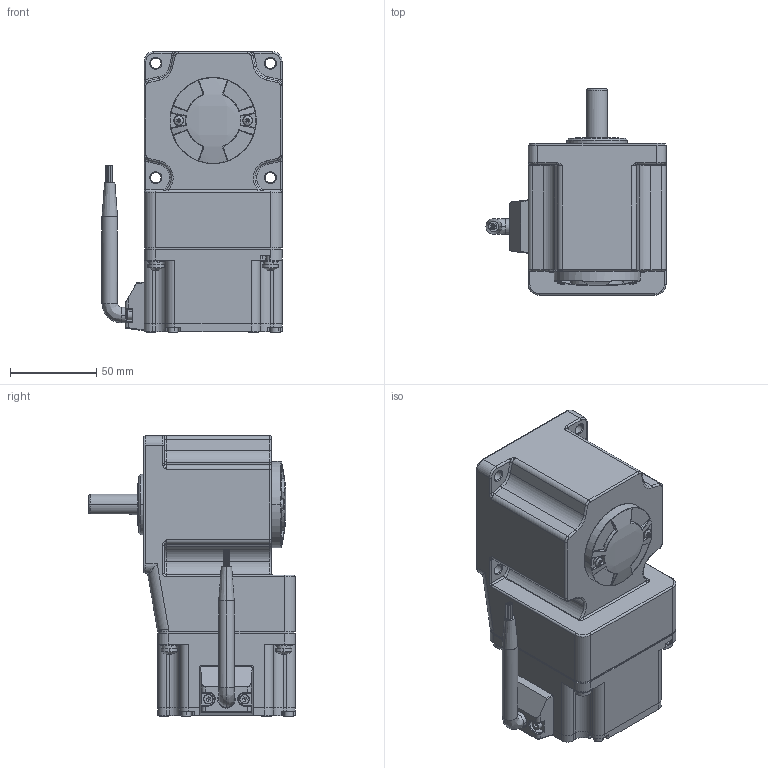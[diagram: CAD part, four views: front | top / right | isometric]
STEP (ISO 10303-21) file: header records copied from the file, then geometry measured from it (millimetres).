
FILE_DESCRIPTION (( 'STEP AP203' ), '1' );
FILE_NAME ('80RT.STEP', '2018-05-30T00:16:53', ( 'admin' ), ( '' ), 'SwSTEP 2.0', 'SolidWorks 2011', '' );
FILE_SCHEMA (( 'CONFIG_CONTROL_DESIGN' ));
Length unit declared in the file: millimetre
Products named in the file (22): 80RT; ASM0008_ASM; PRT0056; PRT0055; PRT0054; PRT0053; PRT0052; PRT0051; ASM0010_ASM; PRT0049; PRT0048; PRT0047; PRT0046; 80萇儂蚾饜极; 竘堤盄; 堤盄殤; M3蹟隊; Z4BLD儂褲; Z4BLD綴傷裔; Plain washers--Product grade C GB_GB_FASTENER_WASHER_SMWC 5; Cross recessed pan head screws GB_GB_CROSS_SCREWS_TYPE1 M5X16-16  H type-C; Spring lock washers--Normal type GB_GB_FASTENER_WASHER_SW 5
Assembly tree (35 placements, depth 4):
  80RT
    Plain washers--Product grade C GB_GB_FASTENER_WASHER_SMWC 5  x4
    Spring lock washers--Normal type GB_GB_FASTENER_WASHER_SW 5  x4
    Cross recessed pan head screws GB_GB_CROSS_SCREWS_TYPE1 M5X16-16  H type-C  x4
    ASM0008_ASM
      PRT0053
      PRT0054
      PRT0051
      ASM0010_ASM
        PRT0049
        PRT0047
        PRT0046
        PRT0048
      PRT0055
      PRT0056
      PRT0052
    80萇儂蚾饜极
      M3蹟隊  x6
      堤盄殤
      Z4BLD綴傷裔
      竘堤盄
      Z4BLD儂褲
Bounding box: 104.5 x 120 x 163 mm (x, y, z)
Volume: 479643.3 mm3; surface area: 188336.6 mm2
Topology: 37 solids, 37 shells, 3242 faces, 7923 edges, 4615 vertices
Faces by surface type: cylinder 1010, cone 815, bspline 758, plane 659
Entity records: 120725 total; most frequent: CARTESIAN_POINT 53389, ORIENTED_EDGE 14360, DIRECTION 12676, EDGE_CURVE 7180, AXIS2_PLACEMENT_3D 5124, VERTEX_POINT 4295, EDGE_LOOP 3153, FACE_OUTER_BOUND 3014
